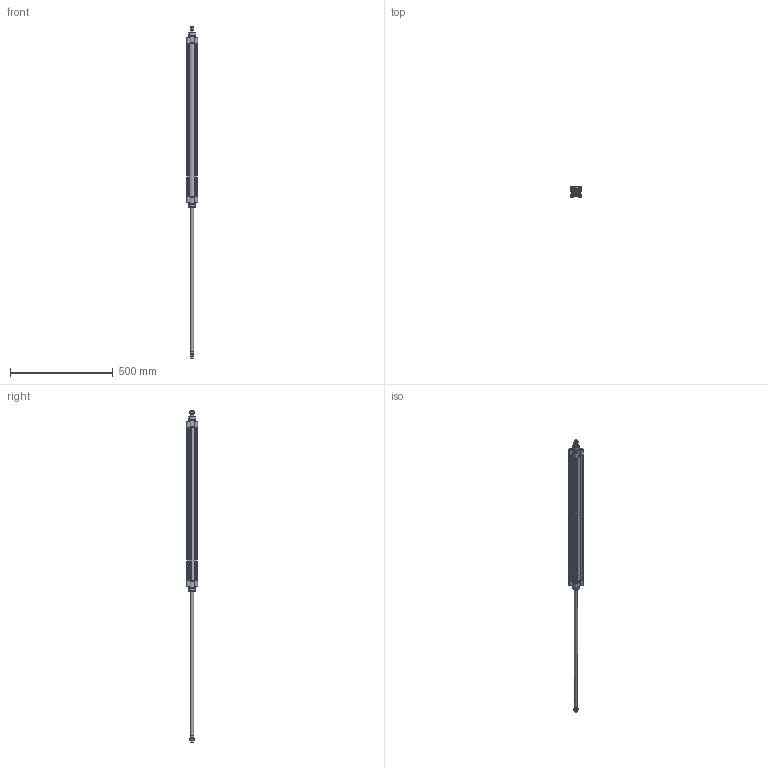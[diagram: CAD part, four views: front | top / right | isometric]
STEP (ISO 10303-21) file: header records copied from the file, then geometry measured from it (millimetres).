
FILE_DESCRIPTION((''),'2;1');
FILE_NAME('I:\Area Tecnica\Disegni\VARIE-3D\Componenti\ECOLIGHT\02\stp\139#_40_0700_02.iam.stp','2012-01-28T09:39:28',(''),(''),'Autodesk Inventor 2012','Autodesk Inventor 2012','');
FILE_SCHEMA(('AUTOMOTIVE_DESIGN { 1 0 10303 214 1 1 1 1 }'));
Length unit declared in the file: millimetre
Products named in the file (5): 139#_40_0700_02; CPL040_004-700; CPL040-001-01; CPL_40SP_0700; 1320_40_18F
Assembly tree (6 placements, depth 2):
  139#_40_0700_02
    CPL040_004-700
    CPL040-001-01  x2
    CPL_40SP_0700
    1320_40_18F  x2
Bounding box: 54 x 54 x 1613 mm (x, y, z)
Volume: 980978.2 mm3; surface area: 520216.1 mm2
Topology: 6 solids, 6 shells, 351 faces, 860 edges, 564 vertices
Faces by surface type: plane 211, cylinder 98, cone 40, torus 2
Full cylindrical faces by diameter (mm): 5 x8, 5.5 x4, 8 x2, 10 x8, 10.5 x10, 10.8 x2, 11.6 x2, 12 x2, 15.5 x2, 16 x4, 30 x2, 35 x2, 40 x4
Entity records: 7104 total; most frequent: CARTESIAN_POINT 1295, DIRECTION 1162, ORIENTED_EDGE 1084, EDGE_CURVE 542, AXIS2_PLACEMENT_3D 413, VERTEX_POINT 380, VECTOR 336, LINE 336
